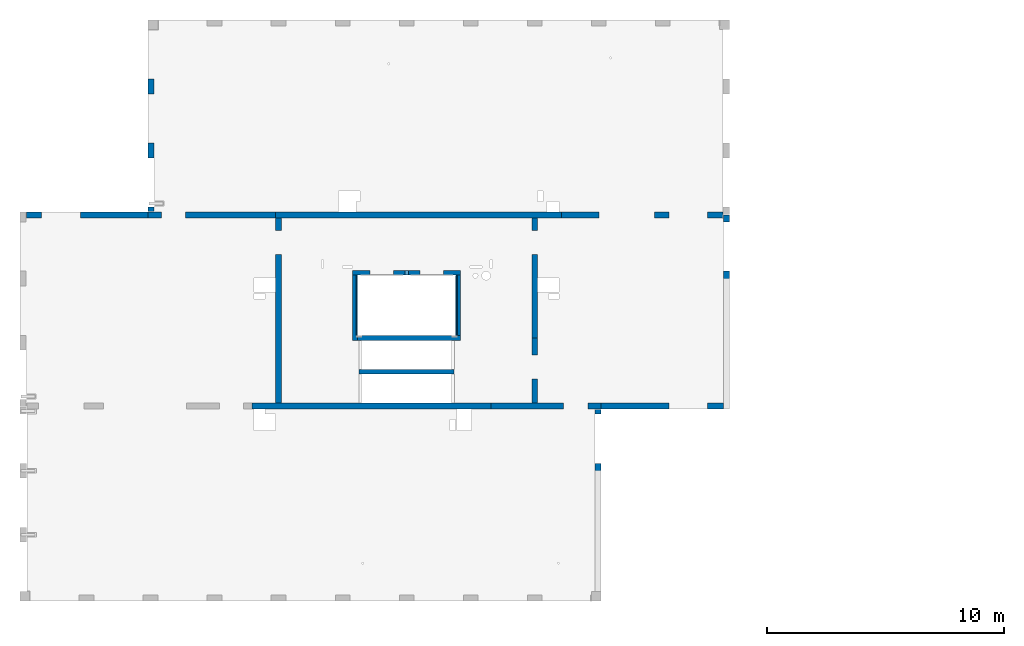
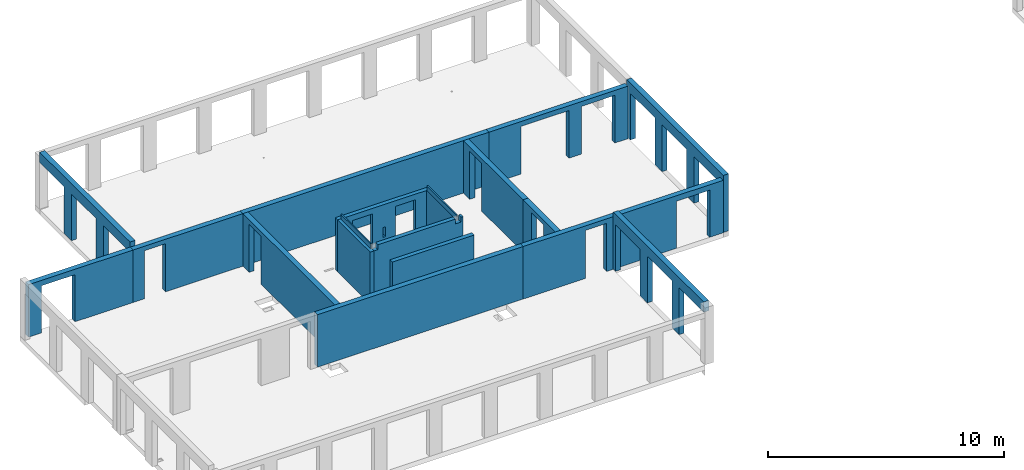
# One storey, part 4 of 13: 20 walls, 23 openings.
"""IFC2X3 building model written with IfcOpenShell, lengths in millimetres."""

import ifcopenshell
import ifcopenshell.guid

model = None  # the IFC model being written
_history = None  # IfcOwnerHistory: only IFC2X3 demands one
_inside = {}  # id of a spatial element -> (the spatial element, [elements in it])
_under = {}  # id of a project, library or spatial element -> (it, [spatial elements below it])
_declared = {}  # id of a project -> (the project, [libraries it declares])
_typed = {}  # id of a type object -> (the type object, [elements of that type])
_made_of = {}  # id of a material, layer set ... -> (it, [elements and type objects made of it])


def new_model(schema):
    """Start an empty IFC model of exactly this schema.

    Asked for "IFC4X3", IfcOpenShell would pick the latest addendum, in which some entities
    have other attributes; the version numbers below select the first issue.
    IFC2X3 requires an IfcOwnerHistory on every rooted entity: one is made here for all.
    """
    global model, _history
    if schema == "IFC4X3":
        model = ifcopenshell.file(schema_version=(4, 3, 0, 0))
    else:
        model = ifcopenshell.file(schema=schema)
    _inside.clear()
    _under.clear()
    _declared.clear()
    _typed.clear()
    _made_of.clear()
    _history = None
    if model.schema == "IFC2X3":
        org = make("IfcOrganization", Name="unknown")
        user = make(
            "IfcPersonAndOrganization",
            ThePerson=make("IfcPerson", FamilyName="unknown"),
            TheOrganization=org,
        )
        app = make(
            "IfcApplication",
            ApplicationDeveloper=org,
            Version="unknown",
            ApplicationFullName="unknown",
            ApplicationIdentifier="unknown",
        )
        _history = make(
            "IfcOwnerHistory",
            OwningUser=user,
            OwningApplication=app,
            ChangeAction="ADDED",
            CreationDate=0,
        )
    return model


def make(cls, **values):
    """One entity of the class cls with the attributes given. An attribute that is None is left unset."""
    return model.create_entity(
        cls, **{name: value for name, value in values.items() if value is not None}
    )


def entity(cls, *values):
    """Any entity or typed value of the class cls, its attributes in the order of the schema. None: left unset."""
    e = model.create_entity(cls)
    for i, value in enumerate(values):
        if value is not None:
            e[i] = value
    return e


def rooted(cls, **values):
    """An entity with a GlobalId (a new one), such as an element, a storey or a relation."""
    return make(cls, GlobalId=ifcopenshell.guid.new(), OwnerHistory=_history, **values)


def si_unit(unit_type, name, prefix=None):
    """IfcSIUnit, for example si_unit("LENGTHUNIT", "METRE", prefix="MILLI")."""
    return make("IfcSIUnit", UnitType=unit_type, Prefix=prefix, Name=name)


def converted_unit(unit_type, name, factor, base, dimensions=None, offset=None):
    """IfcConversionBasedUnit, such as the inch: factor (a typed value) times the base unit."""
    return make(
        "IfcConversionBasedUnit"
        if offset is None
        else "IfcConversionBasedUnitWithOffset",
        ConversionOffset=offset,
        Dimensions=None
        if dimensions is None
        else entity("IfcDimensionalExponents", *dimensions),
        UnitType=unit_type,
        Name=name,
        ConversionFactor=make(
            "IfcMeasureWithUnit", ValueComponent=factor, UnitComponent=base
        ),
    )


def derived_unit(unit_type, elements):
    """IfcDerivedUnit: a product of units, each with its exponent."""
    return make(
        "IfcDerivedUnit",
        Elements=[
            make("IfcDerivedUnitElement", Unit=unit, Exponent=power)
            for unit, power in elements
        ],
        UnitType=unit_type,
    )


def assignment(units):
    """IfcUnitAssignment: the units of a project."""
    return None if units is None else make("IfcUnitAssignment", Units=units)


def point(xyz):
    """IfcCartesianPoint."""
    return None if xyz is None else make("IfcCartesianPoint", Coordinates=xyz)


def direction(xyz):
    """IfcDirection."""
    return None if xyz is None else make("IfcDirection", DirectionRatios=xyz)


def frame(location, z_axis=None, x_axis=None):
    """IfcAxis2Placement3D, a coordinate frame: its origin and axes. An axis left out is left unset."""
    return make(
        "IfcAxis2Placement3D",
        Location=point(location),
        Axis=direction(z_axis),
        RefDirection=direction(x_axis),
    )


def frame_2d(location, x_axis=None):
    """IfcAxis2Placement2D, a coordinate frame in the plane: its origin and x axis."""
    return make(
        "IfcAxis2Placement2D", Location=point(location), RefDirection=direction(x_axis)
    )


def origin():
    """The frame at (0, 0, 0) with its axes left unset."""
    return frame((0.0, 0.0, 0.0))


def origin_2d_with_axis():
    """The frame at (0, 0) in the plane with the x axis (1, 0) written out."""
    return frame_2d((0.0, 0.0), x_axis=(1.0, 0.0))


def place(relative_to, where):
    """IfcLocalPlacement: puts the frame where relative to a parent placement (None: the world)."""
    return make(
        "IfcLocalPlacement", PlacementRelTo=relative_to, RelativePlacement=where
    )


def context(
    kind, dimensions, precision=None, world=None, true_north=None, identifier=None
):
    """IfcGeometricRepresentationContext, for example the 3D "Model" context."""
    return make(
        "IfcGeometricRepresentationContext",
        ContextIdentifier=identifier,
        ContextType=kind,
        CoordinateSpaceDimension=dimensions,
        Precision=precision,
        WorldCoordinateSystem=world,
        TrueNorth=true_north,
    )


def subcontext(parent, identifier, kind, view, scale=None):
    """IfcGeometricRepresentationSubContext, for example "Body" below "Model"."""
    return make(
        "IfcGeometricRepresentationSubContext",
        ContextIdentifier=identifier,
        ContextType=kind,
        ParentContext=parent,
        TargetScale=scale,
        TargetView=view,
    )


def project(units=None, contexts=None):
    """IfcProject with its units and contexts."""
    return rooted(
        "IfcProject",
        Name="project",
        RepresentationContexts=contexts,
        UnitsInContext=assignment(units),
    )


def spatial(cls, under=None, at=None, **own):
    """A site, building, storey or space (cls), placed at a placement, below another one or the project."""
    s = rooted(cls, ObjectPlacement=at, **own)
    if under is not None:
        _under.setdefault(under.id(), (under, []))[1].append(s)
    return s


def profile(cls, at=None, kind="AREA", **sizes):
    """A parametric profile (cls). Its sizes go by their IFC names, for example OverallWidth=200.0."""
    return make(cls, ProfileType=kind, Position=at, **sizes)


def rectangle(**sizes):
    """IfcRectangleProfileDef."""
    return profile("IfcRectangleProfileDef", **sizes)


def extrude(swept, where, along, depth):
    """IfcExtrudedAreaSolid: the profile swept, set in the frame where, extruded along a direction by depth."""
    return make(
        "IfcExtrudedAreaSolid",
        SweptArea=swept,
        Position=where,
        ExtrudedDirection=direction(along),
        Depth=depth,
    )


def shape(context_of_items, identifier, shape_type, items):
    """IfcShapeRepresentation: the items that make up one representation, for example the "Body"."""
    return make(
        "IfcShapeRepresentation",
        ContextOfItems=context_of_items,
        RepresentationIdentifier=identifier,
        RepresentationType=shape_type,
        Items=items,
    )


def material(Name=None, Category=None):
    """IfcMaterial."""
    return make("IfcMaterial", Name=Name, Category=Category)


def layer(
    of_material, thickness, ventilated=None, Name=None, Category=None, Priority=None
):
    """IfcMaterialLayer: one layer of a wall or slab, of a material (None: an air gap)."""
    return make(
        "IfcMaterialLayer",
        Material=of_material,
        LayerThickness=thickness,
        IsVentilated=ventilated,
        Name=Name,
        Category=Category,
        Priority=Priority,
    )


def layer_set(layers, Name=None):
    """IfcMaterialLayerSet."""
    return make("IfcMaterialLayerSet", MaterialLayers=layers, LayerSetName=Name)


def layer_usage(for_layer_set, set_direction, sense, offset, extent=None):
    """IfcMaterialLayerSetUsage: how a layer set lies in its element."""
    return make(
        "IfcMaterialLayerSetUsage",
        ForLayerSet=for_layer_set,
        LayerSetDirection=set_direction,
        DirectionSense=sense,
        OffsetFromReferenceLine=offset,
        ReferenceExtent=extent,
    )


def made_of(thing, what):
    """Note that an element or type object is made of a material, layer set ...; save() writes the relation."""
    if what is not None:
        _made_of.setdefault(what.id(), (what, []))[1].append(thing)
    return thing


def type_object(cls, material=None, **own):
    """A type object (cls), such as IfcWallType, which elements share."""
    return made_of(rooted(cls, **own), material)


def element(
    cls,
    number,
    at=None,
    inside=None,
    cuts=None,
    type_object=None,
    material=None,
    context=None,
    identifier="Body",
    shape_type=None,
    held_by="IfcProductDefinitionShape",
    body=None,
    shapes=None,
    **own,
):
    """One element of the class cls, such as IfcWall. Its Tag is "e" and its number.

    at: its placement. inside: the storey or other place that contains it. cuts: it is an
    opening in that element (IfcRelVoidsElement). A single representation is given by context,
    identifier, shape_type and body (its items); several are given by shapes. held_by: the class
    of the entity that holds the representations. save() writes the other relations.
    """
    e = rooted(cls, Tag="e%d" % number, ObjectPlacement=at, **own)
    if body is not None:
        shapes = [shape(context, identifier, shape_type, body)]
    if shapes is not None:
        e.Representation = make(held_by, Representations=shapes)
    if inside is not None:
        _inside.setdefault(inside.id(), (inside, []))[1].append(e)
    if cuts is not None:
        rooted(
            "IfcRelVoidsElement", RelatingBuildingElement=cuts, RelatedOpeningElement=e
        )
    if type_object is not None:
        _typed.setdefault(type_object.id(), (type_object, []))[1].append(e)
    return made_of(e, material)


def aggregate(whole, parts):
    """IfcRelAggregates: a whole, such as a stair, and the parts it consists of."""
    return rooted("IfcRelAggregates", RelatingObject=whole, RelatedObjects=parts)


def save(model, path):
    """Write the relations noted so far, then the file.

    IfcRelAggregates (storeys below a building ...), IfcRelContainedInSpatialStructure (elements
    in a storey), IfcRelDefinesByType, IfcRelAssociatesMaterial and IfcRelDeclares: one each for
    every whole, place, type object, material and project.
    """
    for whole, parts in _under.values():
        aggregate(whole, parts)
    for where, things in _inside.values():
        rooted(
            "IfcRelContainedInSpatialStructure",
            RelatedElements=things,
            RelatingStructure=where,
        )
    for kind, things in _typed.values():
        rooted("IfcRelDefinesByType", RelatedObjects=things, RelatingType=kind)
    for what, things in _made_of.values():
        rooted("IfcRelAssociatesMaterial", RelatedObjects=things, RelatingMaterial=what)
    for by, libraries in _declared.values():
        rooted("IfcRelDeclares", RelatingContext=by, RelatedDefinitions=libraries)
    model.write(path)


model = new_model("IFC2X3")

# Units and contexts
model_context = context("Model", 3, precision=0.01, world=origin(), true_north=direction((6.12303176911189e-17, 1.0)))
body_context = subcontext(model_context, "Body", "Model", "MODEL_VIEW")
ifc_project = project(units=[si_unit("LENGTHUNIT", "METRE", prefix="MILLI"), si_unit("AREAUNIT", "SQUARE_METRE"), si_unit("VOLUMEUNIT", "CUBIC_METRE"), converted_unit("PLANEANGLEUNIT", "DEGREE", entity("IfcRatioMeasure", 0.0174532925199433), si_unit("PLANEANGLEUNIT", "RADIAN"), dimensions=[0, 0, 0, 0, 0, 0, 0]), si_unit("MASSUNIT", "GRAM", prefix="KILO"), derived_unit("MASSDENSITYUNIT", [(si_unit("MASSUNIT", "GRAM", prefix="KILO"), 1), (si_unit("LENGTHUNIT", "METRE"), -3)]), si_unit("TIMEUNIT", "SECOND"), si_unit("FREQUENCYUNIT", "HERTZ"), si_unit("THERMODYNAMICTEMPERATUREUNIT", "DEGREE_CELSIUS"), derived_unit("THERMALTRANSMITTANCEUNIT", [(si_unit("MASSUNIT", "GRAM", prefix="KILO"), 1), (si_unit("THERMODYNAMICTEMPERATUREUNIT", "KELVIN"), -1), (si_unit("TIMEUNIT", "SECOND"), -3)]), derived_unit("VOLUMETRICFLOWRATEUNIT", [(si_unit("LENGTHUNIT", "METRE"), 3), (si_unit("TIMEUNIT", "SECOND"), -1)]), si_unit("ELECTRICCURRENTUNIT", "AMPERE"), si_unit("ELECTRICVOLTAGEUNIT", "VOLT"), si_unit("POWERUNIT", "WATT"), si_unit("FORCEUNIT", "NEWTON", prefix="KILO"), si_unit("ILLUMINANCEUNIT", "LUX"), si_unit("LUMINOUSFLUXUNIT", "LUMEN"), si_unit("LUMINOUSINTENSITYUNIT", "CANDELA"), derived_unit("USERDEFINED", [(si_unit("MASSUNIT", "GRAM", prefix="KILO"), -1), (si_unit("LENGTHUNIT", "METRE"), -2), (si_unit("TIMEUNIT", "SECOND"), 3), (si_unit("LUMINOUSFLUXUNIT", "LUMEN"), 1)]), derived_unit("LINEARVELOCITYUNIT", [(si_unit("LENGTHUNIT", "METRE"), 1), (si_unit("TIMEUNIT", "SECOND"), -1)]), si_unit("PRESSUREUNIT", "PASCAL"), derived_unit("USERDEFINED", [(si_unit("LENGTHUNIT", "METRE"), -2), (si_unit("MASSUNIT", "GRAM", prefix="KILO"), 1), (si_unit("TIMEUNIT", "SECOND"), -2)])], contexts=[model_context])

# Site, building, storey
site_placement = place(None, origin())
site = spatial("IfcSite", under=ifc_project, at=site_placement, Name="Default", CompositionType="ELEMENT")
building_placement = place(site_placement, origin())
building = spatial("IfcBuilding", under=site, at=building_placement, Name="niet gebruiken", CompositionType="ELEMENT")
storey_placement = place(building_placement, frame((0.0, 0.0, 60120.0)))
storey = spatial("IfcBuildingStorey", under=building, at=storey_placement, Name="20 twintigste verdieping", CompositionType="ELEMENT", Elevation=60120.0)

# Wall, opening
ifc_material_1 = material(Name="NLRS_f2_beton ihwg")
ifc_layer_1 = layer(ifc_material_1, 250.0)
ifc_layer_set_1 = layer_set([ifc_layer_1], Name="Basic Wall:NLRS_22.21_WA_beton ihwg d=250_gen")
ifc_layer_usage_1 = layer_usage(ifc_layer_set_1, "AXIS2", "NEGATIVE", 125.0)
wall_type_1 = type_object("IfcWallType", Name="Basic Wall:NLRS_22.21_WA_beton ihwg d=250_gen", PredefinedType="STANDARD", material=ifc_layer_set_1)
wall_1_placement = place(storey_placement, frame((27170.0, 45031.0, -90.0)))
wall_1 = element("IfcWallStandardCase", 1, at=wall_1_placement, inside=storey, type_object=wall_type_1, material=ifc_layer_usage_1, Name="Basic Wall:NLRS_22.21_WA_beton ihwg d=250_gen", ObjectType="Basic Wall:NLRS_22.21_WA_beton ihwg d=250_gen", context=body_context, shape_type="SweptSolid", body=[
    extrude(rectangle(XDim=5130.0, YDim=249.999999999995, at=frame_2d((2565.0, 0.0), x_axis=(-1.0, 0.0))), origin(), (0.0, 0.0, 1.0), 2719.99999999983),
])
opening_1_placement = place(wall_1_placement, origin())
element("IfcOpeningElement", 2, at=opening_1_placement, cuts=wall_1, Name="Basic Wall:NLRS_22.21_WA_beton ihwg d=250_gen", ObjectType="Opening", context=body_context, shape_type="SweptSolid", body=[
    extrude(rectangle(XDim=2440.0, YDim=1640.0, at=origin_2d_with_axis()), frame((1460.0, -1649.0, 1220.0), z_axis=(0.0, 1.0, 0.0), x_axis=(0.0, 0.0, 1.0)), (0.0, 0.0, 1.0), 3048.0),
])

ifc_layer_usage_2 = layer_usage(ifc_layer_set_1, "AXIS2", "NEGATIVE", 125.0)
wall_2_placement = place(storey_placement, frame((37800.0, 44906.0, -90.0), z_axis=(0.0, 0.0, 1.0), x_axis=(0.0, -1.0, 0.0)))
wall_2 = element("IfcWallStandardCase", 3, at=wall_2_placement, inside=storey, type_object=wall_type_1, material=ifc_layer_usage_2, Name="Basic Wall:NLRS_22.21_WA_beton ihwg d=250_gen", ObjectType="Basic Wall:NLRS_22.21_WA_beton ihwg d=250_gen", context=body_context, shape_type="SweptSolid", body=[
    extrude(rectangle(XDim=7799.99999999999, YDim=250.000000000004, at=frame_2d((3900.0, 0.0), x_axis=(-1.0, 0.0))), origin(), (0.0, 0.0, 1.0), 2719.99999999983),
])
opening_2_placement = place(wall_2_placement, origin())
element("IfcOpeningElement", 4, at=opening_2_placement, cuts=wall_2, Name="Basic Wall:NLRS_22.21_WA_beton ihwg d=250_gen", ObjectType="Opening", context=body_context, shape_type="SweptSolid", body=[
    extrude(rectangle(XDim=2470.0, YDim=1006.0, at=frame_2d((-4.43378667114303e-12, 0.0), x_axis=(1.0, 0.0))), frame((1027.0, -1649.0, 1235.0), z_axis=(0.0, 1.0, 0.0), x_axis=(0.0, 0.0, 1.0)), (0.0, 0.0, 1.0), 3048.0),
])

ifc_layer_usage_3 = layer_usage(ifc_layer_set_1, "AXIS2", "NEGATIVE", 125.0)
wall_3_placement = place(storey_placement, frame((48600.0, 44906.0, -90.0), z_axis=(0.0, 0.0, 1.0), x_axis=(0.0, -1.0, 0.0)))
wall_3 = element("IfcWallStandardCase", 5, at=wall_3_placement, inside=storey, type_object=wall_type_1, material=ifc_layer_usage_3, Name="Basic Wall:NLRS_22.21_WA_beton ihwg d=250_gen", ObjectType="Basic Wall:NLRS_22.21_WA_beton ihwg d=250_gen", context=body_context, shape_type="SweptSolid", body=[
    extrude(rectangle(XDim=5050.0, YDim=249.999999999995, at=frame_2d((2525.0, 1.27897692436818e-12), x_axis=(-1.0, 0.0))), origin(), (0.0, 0.0, 1.0), 2719.99999999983),
])
opening_3_placement = place(wall_3_placement, origin())
element("IfcOpeningElement", 6, at=opening_3_placement, cuts=wall_3, Name="Basic Wall:NLRS_22.21_WA_beton ihwg d=250_gen", ObjectType="Opening", context=body_context, shape_type="SweptSolid", body=[
    extrude(rectangle(XDim=2470.0, YDim=1006.0, at=frame_2d((-4.43378667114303e-12, 0.0), x_axis=(1.0, 0.0))), frame((1027.0, -1649.0, 1235.0), z_axis=(0.0, 1.0, 0.0), x_axis=(0.0, 0.0, 1.0)), (0.0, 0.0, 1.0), 3048.0),
])

ifc_layer_usage_4 = layer_usage(ifc_layer_set_1, "AXIS2", "NEGATIVE", 125.0)
wall_4_placement = place(storey_placement, frame((32300.0, 45031.0, -90.0)))
wall_4 = element("IfcWallStandardCase", 7, at=wall_4_placement, inside=storey, type_object=wall_type_1, material=ifc_layer_usage_4, Name="Basic Wall:NLRS_22.21_WA_beton ihwg d=250_gen", ObjectType="Basic Wall:NLRS_22.21_WA_beton ihwg d=250_gen", context=body_context, shape_type="SweptSolid", body=[
    extrude(rectangle(XDim=5375.0, YDim=249.999999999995, at=frame_2d((2687.5, 0.0), x_axis=(-1.0, 0.0))), origin(), (0.0, 0.0, 1.0), 2719.99999999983),
])
opening_4_placement = place(wall_4_placement, origin())
element("IfcOpeningElement", 8, at=opening_4_placement, cuts=wall_4, Name="Basic Wall:NLRS_22.21_WA_beton ihwg d=250_gen", ObjectType="Opening", context=body_context, shape_type="SweptSolid", body=[
    extrude(rectangle(XDim=2492.00000000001, YDim=1022.0, at=frame_2d((2.1600499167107e-12, 8.75388650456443e-12), x_axis=(0.0, 1.0))), frame((1075.0, -1399.0, 1246.0), z_axis=(0.0, 1.0, 0.0), x_axis=(-1.0, 0.0, 0.0)), (0.0, 0.0, 1.0), 3048.0),
])

ifc_layer_usage_5 = layer_usage(ifc_layer_set_1, "AXIS2", "NEGATIVE", 125.0)
wall_5_placement = place(storey_placement, frame((51400.0, 36981.0, -90.0)))
wall_5 = element("IfcWallStandardCase", 9, at=wall_5_placement, inside=storey, type_object=wall_type_1, material=ifc_layer_usage_5, Name="Basic Wall:NLRS_22.21_WA_beton ihwg d=250_gen", ObjectType="Basic Wall:NLRS_22.21_WA_beton ihwg d=250_gen", context=body_context, shape_type="SweptSolid", body=[
    extrude(rectangle(XDim=5150.0, YDim=250.000000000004, at=frame_2d((2575.0, 0.0), x_axis=(-1.0, 0.0))), origin(), (0.0, 0.0, 1.0), 2719.99999999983),
])
opening_5_placement = place(wall_5_placement, origin())
element("IfcOpeningElement", 10, at=opening_5_placement, cuts=wall_5, Name="Basic Wall:NLRS_22.21_WA_beton ihwg d=250_gen", ObjectType="Opening", context=body_context, shape_type="SweptSolid", body=[
    extrude(rectangle(XDim=2440.0, YDim=1640.0, at=frame_2d((-4.37694325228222e-12, 0.0), x_axis=(0.0, 1.0))), frame((3670.0, -1399.0, 1220.0), z_axis=(0.0, 1.0, 0.0), x_axis=(-1.0, 0.0, 0.0)), (0.0, 0.0, 1.0), 3048.0),
])

# Wall
ifc_layer_usage_6 = layer_usage(ifc_layer_set_1, "AXIS2", "NEGATIVE", 125.0)
wall_6_placement = place(storey_placement, frame((37675.0, 45031.0, -90.0)))
element("IfcWallStandardCase", 11, at=wall_6_placement, inside=storey, type_object=wall_type_1, material=ifc_layer_usage_6, Name="Basic Wall:NLRS_22.21_WA_beton ihwg d=250_gen", ObjectType="Basic Wall:NLRS_22.21_WA_beton ihwg d=250_gen", context=body_context, shape_type="SweptSolid", body=[
    extrude(rectangle(XDim=12050.0, YDim=249.999999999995, at=frame_2d((6025.00000000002, 0.0), x_axis=(-1.0, 0.0))), origin(), (0.0, 0.0, 1.0), 2719.99999999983),
])

# Wall, openings
ifc_layer_usage_7 = layer_usage(ifc_layer_set_1, "AXIS2", "NEGATIVE", 125.0)
wall_7_placement = place(storey_placement, frame((49725.0, 45031.0, -90.0)))
wall_7 = element("IfcWallStandardCase", 12, at=wall_7_placement, inside=storey, type_object=wall_type_1, material=ifc_layer_usage_7, Name="Basic Wall:NLRS_22.21_WA_beton ihwg d=250_gen", ObjectType="Basic Wall:NLRS_22.21_WA_beton ihwg d=250_gen", context=body_context, shape_type="SweptSolid", body=[
    extrude(rectangle(XDim=6805.0, YDim=249.999999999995, at=frame_2d((3402.5, 0.0), x_axis=(-1.0, 0.0))), origin(), (0.0, 0.0, 1.0), 2719.99999999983),
])
opening_6_placement = place(wall_7_placement, origin())
element("IfcOpeningElement", 13, at=opening_6_placement, cuts=wall_7, Name="Basic Wall:NLRS_22.21_WA_beton ihwg d=250_gen", ObjectType="Opening", context=body_context, shape_type="SweptSolid", body=[
    extrude(rectangle(XDim=2470.0, YDim=2350.0, at=frame_2d((4.43378667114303e-12, -8.64019966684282e-12), x_axis=(1.0, 0.0))), frame((2750.0, -1649.0, 1235.0), z_axis=(0.0, 1.0, 0.0), x_axis=(0.0, 0.0, 1.0)), (0.0, 0.0, 1.0), 3048.0),
])
opening_7_placement = place(wall_7_placement, origin())
element("IfcOpeningElement", 14, at=opening_7_placement, cuts=wall_7, Name="Basic Wall:NLRS_22.21_WA_beton ihwg d=250_gen", ObjectType="Opening", context=body_context, shape_type="SweptSolid", body=[
    extrude(rectangle(XDim=2470.0, YDim=1640.0, at=frame_2d((4.43378667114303e-12, 4.37694325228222e-12), x_axis=(1.0, 0.0))), frame((5345.0, -1649.0, 1235.0), z_axis=(0.0, 1.0, 0.0), x_axis=(0.0, 0.0, 1.0)), (0.0, 0.0, 1.0), 3048.0),
])

# Wall, opening
ifc_layer_usage_8 = layer_usage(ifc_layer_set_1, "AXIS2", "NEGATIVE", 125.0)
wall_8_placement = place(storey_placement, frame((48600.0, 39856.0, -90.0), z_axis=(0.0, 0.0, 1.0), x_axis=(0.0, -1.0, 0.0)))
wall_8 = element("IfcWallStandardCase", 15, at=wall_8_placement, inside=storey, type_object=wall_type_1, material=ifc_layer_usage_8, Name="Basic Wall:NLRS_22.21_WA_beton ihwg d=250_gen", ObjectType="Basic Wall:NLRS_22.21_WA_beton ihwg d=250_gen", context=body_context, shape_type="SweptSolid", body=[
    extrude(rectangle(XDim=2749.99999999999, YDim=249.999999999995, at=frame_2d((1375.0, -1.27897692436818e-12), x_axis=(-1.0, 0.0))), origin(), (0.0, 0.0, 1.0), 2719.99999999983),
])
opening_8_placement = place(wall_8_placement, origin())
element("IfcOpeningElement", 16, at=opening_8_placement, cuts=wall_8, Name="Basic Wall:NLRS_22.21_WA_beton ihwg d=250_gen", ObjectType="Opening", context=body_context, shape_type="SweptSolid", body=[
    extrude(rectangle(XDim=2492.00000000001, YDim=1022.0, at=frame_2d((0.0, -2.1600499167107e-12), x_axis=(1.0, 0.0))), frame((1225.0, -1649.0, 1246.0), z_axis=(0.0, 1.0, 0.0), x_axis=(0.0, 0.0, 1.0)), (0.0, 0.0, 1.0), 3048.0),
])

ifc_layer_usage_9 = layer_usage(ifc_layer_set_1, "AXIS2", "NEGATIVE", 125.0)
wall_9_placement = place(storey_placement, frame((46750.0, 36981.0, -90.0)))
wall_9 = element("IfcWallStandardCase", 17, at=wall_9_placement, inside=storey, type_object=wall_type_1, material=ifc_layer_usage_9, Name="Basic Wall:NLRS_22.21_WA_beton ihwg d=250_gen", ObjectType="Basic Wall:NLRS_22.21_WA_beton ihwg d=250_gen", context=body_context, shape_type="SweptSolid", body=[
    extrude(rectangle(XDim=4650.0, YDim=250.000000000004, at=frame_2d((2325.0, 0.0), x_axis=(-1.0, 0.0))), origin(), (0.0, 0.0, 1.0), 2719.99999999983),
])
opening_9_placement = place(wall_9_placement, origin())
element("IfcOpeningElement", 18, at=opening_9_placement, cuts=wall_9, Name="Basic Wall:NLRS_22.21_WA_beton ihwg d=250_gen", ObjectType="Opening", context=body_context, shape_type="SweptSolid", body=[
    extrude(rectangle(XDim=2492.00000000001, YDim=1022.0, at=frame_2d((0.0, 4.32009983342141e-12), x_axis=(1.0, 0.0))), frame((3575.0, -1649.0, 1246.0), z_axis=(0.0, 1.0, 0.0), x_axis=(0.0, 0.0, 1.0)), (0.0, 0.0, 1.0), 3048.0),
])

# Wall
ifc_layer_usage_10 = layer_usage(ifc_layer_set_1, "AXIS2", "NEGATIVE", 125.0)
wall_10_placement = place(storey_placement, frame((36675.0, 36981.0, -90.0)))
element("IfcWallStandardCase", 19, at=wall_10_placement, inside=storey, type_object=wall_type_1, material=ifc_layer_usage_10, Name="Basic Wall:NLRS_22.21_WA_beton ihwg d=250_gen", ObjectType="Basic Wall:NLRS_22.21_WA_beton ihwg d=250_gen", context=body_context, shape_type="SweptSolid", body=[
    extrude(rectangle(XDim=10075.0, YDim=250.000000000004, at=frame_2d((5037.5, 0.0), x_axis=(-1.0, 0.0))), origin(), (0.0, 0.0, 1.0), 2719.99999999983),
])

# Wall, openings
ifc_material_2 = material(Name="NLRS_f2_beton prefab")
ifc_layer_2 = layer(ifc_material_2, 250.0)
ifc_layer_set_2 = layer_set([ifc_layer_2], Name="Basic Wall:NLRS_21.21_WA_beton prefab d=250_gen")
ifc_layer_usage_11 = layer_usage(ifc_layer_set_2, "AXIS2", "NEGATIVE", 125.0)
wall_type_2 = type_object("IfcWallType", Name="Basic Wall:NLRS_21.21_WA_beton prefab d=250_gen", PredefinedType="STANDARD", material=ifc_layer_set_2)
wall_11_placement = place(storey_placement, frame((32425.0, 52846.0, -70.0), z_axis=(0.0, 0.0, 1.0), x_axis=(0.0, -1.0, 0.0)))
wall_11 = element("IfcWallStandardCase", 20, at=wall_11_placement, inside=storey, type_object=wall_type_2, material=ifc_layer_usage_11, Name="Basic Wall:NLRS_21.21_WA_beton prefab d=250_gen", ObjectType="Basic Wall:NLRS_21.21_WA_beton prefab d=250_gen", context=body_context, shape_type="SweptSolid", body=[
    extrude(rectangle(XDim=7670.00000000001, YDim=250.000000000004, at=frame_2d((3835.0, 0.0), x_axis=(-1.0, 0.0))), origin(), (0.0, 0.0, 1.0), 2950.00000000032),
])
opening_10_placement = place(wall_11_placement, origin())
element("IfcOpeningElement", 21, at=opening_10_placement, cuts=wall_11, Name="Basic Wall:NLRS_21.21_WA_beton prefab d=250_gen", ObjectType="Opening", context=body_context, shape_type="SweptSolid", body=[
    extrude(rectangle(XDim=2420.0, YDim=2080.0, at=frame_2d((8.64019966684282e-12, 0.0), x_axis=(0.0, 1.0))), frame((1040.0, -1399.0, 1210.0), z_axis=(0.0, 1.0, 0.0), x_axis=(-1.0, 0.0, 0.0)), (0.0, 0.0, 1.0), 3048.0),
])
opening_11_placement = place(wall_11_placement, origin())
element("IfcOpeningElement", 22, at=opening_11_placement, cuts=wall_11, Name="Basic Wall:NLRS_21.21_WA_beton prefab d=250_gen", ObjectType="Opening", context=body_context, shape_type="SweptSolid", body=[
    extrude(rectangle(XDim=2420.0, YDim=2080.0, at=frame_2d((0.0, 0.0), x_axis=(0.0, 1.0))), frame((3740.0, -1399.0, 1210.0), z_axis=(0.0, 1.0, 0.0), x_axis=(-1.0, 0.0, 0.0)), (0.0, 0.0, 1.0), 3048.0),
])
opening_12_placement = place(wall_11_placement, origin())
element("IfcOpeningElement", 23, at=opening_12_placement, cuts=wall_11, Name="Basic Wall:NLRS_21.21_WA_beton prefab d=250_gen", ObjectType="Opening", context=body_context, shape_type="SweptSolid", body=[
    extrude(rectangle(XDim=2420.0, YDim=2080.0, at=frame_2d((0.0, 0.0), x_axis=(0.0, 1.0))), frame((6440.0, -1399.0, 1210.0), z_axis=(0.0, 1.0, 0.0), x_axis=(-1.0, 0.0, 0.0)), (0.0, 0.0, 1.0), 3048.0),
])

ifc_layer_usage_12 = layer_usage(ifc_layer_set_2, "AXIS2", "NEGATIVE", 125.0)
wall_12_placement = place(storey_placement, frame((56675.0, 45046.0, -70.0), z_axis=(0.0, 0.0, 1.0), x_axis=(0.0, -1.0, 0.0)))
wall_12 = element("IfcWallStandardCase", 24, at=wall_12_placement, inside=storey, type_object=wall_type_2, material=ifc_layer_usage_12, Name="Basic Wall:NLRS_21.21_WA_beton prefab d=250_gen", ObjectType="Basic Wall:NLRS_21.21_WA_beton prefab d=250_gen", context=body_context, shape_type="SweptSolid", body=[
    extrude(rectangle(XDim=8189.99999999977, YDim=249.999999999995, at=frame_2d((4094.99999999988, 0.0), x_axis=(-1.0, 0.0))), origin(), (0.0, 0.0, 1.0), 2950.00000000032),
])
opening_13_placement = place(wall_12_placement, origin())
element("IfcOpeningElement", 25, at=opening_13_placement, cuts=wall_12, Name="Basic Wall:NLRS_21.21_WA_beton prefab d=250_gen", ObjectType="Opening", context=body_context, shape_type="SweptSolid", body=[
    extrude(rectangle(XDim=2420.0, YDim=2080.0, at=frame_2d((0.0, 0.0), x_axis=(0.0, 1.0))), frame((1340.0, -1399.0, 1210.0), z_axis=(0.0, 1.0, 0.0), x_axis=(-1.0, 0.0, 0.0)), (0.0, 0.0, 1.0), 3048.0),
])
opening_14_placement = place(wall_12_placement, origin())
element("IfcOpeningElement", 26, at=opening_14_placement, cuts=wall_12, Name="Basic Wall:NLRS_21.21_WA_beton prefab d=250_gen", ObjectType="Opening", context=body_context, shape_type="SweptSolid", body=[
    extrude(rectangle(XDim=2420.0, YDim=2080.0, at=frame_2d((0.0, 0.0), x_axis=(0.0, 1.0))), frame((4040.0, -1399.0, 1210.0), z_axis=(0.0, 1.0, 0.0), x_axis=(-1.0, 0.0, 0.0)), (0.0, 0.0, 1.0), 3048.0),
])
opening_15_placement = place(wall_12_placement, origin())
element("IfcOpeningElement", 27, at=opening_15_placement, cuts=wall_12, Name="Basic Wall:NLRS_21.21_WA_beton prefab d=250_gen", ObjectType="Opening", context=body_context, shape_type="SweptSolid", body=[
    extrude(rectangle(XDim=2420.0, YDim=2080.0, at=frame_2d((0.0, 0.0), x_axis=(0.0, 1.0))), frame((6740.0, -1399.0, 1210.0), z_axis=(0.0, 1.0, 0.0), x_axis=(-1.0, 0.0, 0.0)), (0.0, 0.0, 1.0), 3048.0),
])

ifc_layer_usage_13 = layer_usage(ifc_layer_set_2, "AXIS2", "NEGATIVE", 125.0)
wall_13_placement = place(storey_placement, frame((51275.0, 29166.0, -70.0), z_axis=(0.0, 0.0, 1.0), x_axis=(0.0, 1.0, 0.0)))
wall_13 = element("IfcWallStandardCase", 28, at=wall_13_placement, inside=storey, type_object=wall_type_2, material=ifc_layer_usage_13, Name="Basic Wall:NLRS_21.21_WA_beton prefab d=250_gen", ObjectType="Basic Wall:NLRS_21.21_WA_beton prefab d=250_gen", context=body_context, shape_type="SweptSolid", body=[
    extrude(rectangle(XDim=7669.99999999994, YDim=249.999999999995, at=frame_2d((3834.99999999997, 0.0), x_axis=(-1.0, 0.0))), origin(), (0.0, 0.0, 1.0), 2949.99999999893),
])
opening_16_placement = place(wall_13_placement, origin())
element("IfcOpeningElement", 29, at=opening_16_placement, cuts=wall_13, Name="Basic Wall:NLRS_21.21_WA_beton prefab d=250_gen", ObjectType="Opening", context=body_context, shape_type="SweptSolid", body=[
    extrude(rectangle(XDim=2420.0, YDim=2080.0, at=frame_2d((2.1600499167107e-12, 0.0), x_axis=(0.0, 1.0))), frame((1040.0, -1399.0, 1210.0), z_axis=(0.0, 1.0, 0.0), x_axis=(-1.0, 0.0, 0.0)), (0.0, 0.0, 1.0), 3048.0),
])
opening_17_placement = place(wall_13_placement, origin())
element("IfcOpeningElement", 30, at=opening_17_placement, cuts=wall_13, Name="Basic Wall:NLRS_21.21_WA_beton prefab d=250_gen", ObjectType="Opening", context=body_context, shape_type="SweptSolid", body=[
    extrude(rectangle(XDim=2420.0, YDim=2080.0, at=frame_2d((2.1600499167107e-12, 0.0), x_axis=(0.0, 1.0))), frame((6440.0, -1399.0, 1210.0), z_axis=(0.0, 1.0, 0.0), x_axis=(-1.0, 0.0, 0.0)), (0.0, 0.0, 1.0), 3048.0),
])
opening_18_placement = place(wall_13_placement, origin())
element("IfcOpeningElement", 31, at=opening_18_placement, cuts=wall_13, Name="Basic Wall:NLRS_21.21_WA_beton prefab d=250_gen", ObjectType="Opening", context=body_context, shape_type="SweptSolid", body=[
    extrude(rectangle(XDim=2420.0, YDim=2080.0, at=frame_2d((2.1600499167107e-12, 0.0), x_axis=(0.0, 1.0))), frame((3740.0, -1399.0, 1210.0), z_axis=(0.0, 1.0, 0.0), x_axis=(-1.0, 0.0, 0.0)), (0.0, 0.0, 1.0), 3048.0),
])

# Wall
ifc_layer_3 = layer(ifc_material_2, 200.0)
ifc_layer_set_3 = layer_set([ifc_layer_3], Name="Basic Wall:NLRS_21.21_WA_beton prefab d=200_gen")
ifc_layer_usage_14 = layer_usage(ifc_layer_set_3, "AXIS2", "NEGATIVE", 100.0)
wall_type_3 = type_object("IfcWallType", Name="Basic Wall:NLRS_21.21_WA_beton prefab d=200_gen", PredefinedType="STANDARD", material=ifc_layer_set_3)
wall_14_placement = place(storey_placement, frame((41200.0, 38426.0, -70.0)))
element("IfcWallStandardCase", 32, at=wall_14_placement, inside=storey, type_object=wall_type_3, material=ifc_layer_usage_14, Name="Basic Wall:NLRS_21.21_WA_beton prefab d=200_gen", ObjectType="Basic Wall:NLRS_21.21_WA_beton prefab d=200_gen", context=body_context, shape_type="SweptSolid", body=[
    extrude(rectangle(XDim=3999.99999999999, YDim=199.999999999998, at=frame_2d((2000.0, 0.0), x_axis=(-1.0, 0.0))), origin(), (0.0, 0.0, 1.0), 2950.00000000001),
])

# Wall, openings
ifc_layer_4 = layer(ifc_material_2, 200.0)
ifc_layer_set_4 = layer_set([ifc_layer_4], Name="Basic Wall:NLRS_22.21_WA_beton prefab d=200_gen")
ifc_layer_usage_15 = layer_usage(ifc_layer_set_4, "AXIS2", "NEGATIVE", 100.0)
wall_type_4 = type_object("IfcWallType", Name="Basic Wall:NLRS_22.21_WA_beton prefab d=200_gen", PredefinedType="STANDARD", material=ifc_layer_set_4)
wall_15_placement = place(storey_placement, frame((40925.0, 42596.0, -70.0)))
wall_15 = element("IfcWallStandardCase", 33, at=wall_15_placement, inside=storey, type_object=wall_type_4, material=ifc_layer_usage_15, Name="Basic Wall:NLRS_22.21_WA_beton prefab d=200_gen", ObjectType="Basic Wall:NLRS_22.21_WA_beton prefab d=200_gen", context=body_context, shape_type="SweptSolid", body=[
    extrude(rectangle(XDim=4549.99999999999, YDim=200.000000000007, at=frame_2d((2274.99999999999, 7.8159700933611e-13), x_axis=(-1.0, 0.0))), origin(), (0.0, 0.0, 1.0), 2700.00000000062),
])
opening_19_placement = place(wall_15_placement, origin())
element("IfcOpeningElement", 34, at=opening_19_placement, cuts=wall_15, Name="Basic Wall:NLRS_22.21_WA_beton prefab d=200_gen", ObjectType="Opening", context=body_context, shape_type="SweptSolid", body=[
    extrude(rectangle(XDim=2430.0, YDim=980.000000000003, at=origin_2d_with_axis()), frame((1219.99984910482, -1624.0, 1195.0), z_axis=(0.0, 1.0, 0.0), x_axis=(0.0, 0.0, 1.0)), (0.0, 0.0, 1.0), 3048.0),
])
opening_20_placement = place(wall_15_placement, origin())
element("IfcOpeningElement", 35, at=opening_20_placement, cuts=wall_15, Name="Basic Wall:NLRS_22.21_WA_beton prefab d=200_gen", ObjectType="Opening", context=body_context, shape_type="SweptSolid", body=[
    extrude(rectangle(XDim=2430.0, YDim=980.000000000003, at=origin_2d_with_axis()), frame((3329.99984910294, -1624.0, 1195.0), z_axis=(0.0, 1.0, 0.0), x_axis=(0.0, 0.0, 1.0)), (0.0, 0.0, 1.0), 3048.0),
])
opening_21_placement = place(wall_15_placement, origin())
element("IfcOpeningElement", 36, at=opening_21_placement, cuts=wall_15, Name="Basic Wall:NLRS_22.21_WA_beton prefab d=200_gen", ObjectType="Opening", context=body_context, shape_type="SweptSolid", body=[
    extrude(rectangle(XDim=505.000000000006, YDim=135.000000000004, at=frame_2d((-4.33431068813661e-12, 0.0), x_axis=(1.0, 0.0))), frame((2275.0, -1624.0, 1272.50000000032), z_axis=(0.0, 1.0, 0.0), x_axis=(0.0, 0.0, 1.0)), (0.0, 0.0, 1.0), 3048.0),
])

# Wall
ifc_layer_usage_16 = layer_usage(ifc_layer_set_4, "AXIS2", "NEGATIVE", 100.0)
wall_16_placement = place(storey_placement, frame((41025.0, 42496.0, -70.0), z_axis=(0.0, 0.0, 1.0), x_axis=(0.0, -1.0, 0.0)))
element("IfcWallStandardCase", 37, at=wall_16_placement, inside=storey, type_object=wall_type_4, material=ifc_layer_usage_16, Name="Basic Wall:NLRS_22.21_WA_beton prefab d=200_gen", ObjectType="Basic Wall:NLRS_22.21_WA_beton prefab d=200_gen", context=body_context, shape_type="SweptSolid", body=[
    extrude(rectangle(XDim=2749.99999999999, YDim=200.000000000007, at=frame_2d((1375.0, 0.0), x_axis=(-1.0, 0.0))), origin(), (0.0, 0.0, 1.0), 2700.00000000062),
])

# Wall, openings
ifc_layer_usage_17 = layer_usage(ifc_layer_set_4, "AXIS2", "NEGATIVE", 100.0)
wall_17_placement = place(storey_placement, frame((45475.0, 39846.0, -70.0), z_axis=(0.0, 0.0, 1.0), x_axis=(-1.0, 0.0, 0.0)))
wall_17 = element("IfcWallStandardCase", 38, at=wall_17_placement, inside=storey, type_object=wall_type_4, material=ifc_layer_usage_17, Name="Basic Wall:NLRS_22.21_WA_beton prefab d=200_gen", ObjectType="Basic Wall:NLRS_22.21_WA_beton prefab d=200_gen", context=body_context, shape_type="SweptSolid", body=[
    extrude(rectangle(XDim=4349.99999999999, YDim=200.000000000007, at=frame_2d((2174.99999999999, 0.0), x_axis=(-1.0, 0.0))), origin(), (0.0, 0.0, 1.0), 2950.00000000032),
])
opening_22_placement = place(wall_17_placement, origin())
element("IfcOpeningElement", 39, at=opening_22_placement, cuts=wall_17, Name="Basic Wall:NLRS_22.21_WA_beton prefab d=200_gen", ObjectType="Opening", context=body_context, shape_type="SweptSolid", body=[
    extrude(rectangle(XDim=249.999999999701, YDim=274.999934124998, at=frame_2d((0.0, 4.33431068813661e-12), x_axis=(1.0, 0.0))), frame((4312.50003293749, 100.0, 2825.0), z_axis=(0.0, -1.0, 0.0), x_axis=(0.0, 0.0, 1.0)), (0.0, 0.0, 1.0), 200.0),
])
opening_23_placement = place(wall_17_placement, origin())
element("IfcOpeningElement", 40, at=opening_23_placement, cuts=wall_17, Name="Basic Wall:NLRS_22.21_WA_beton prefab d=200_gen", ObjectType="Opening", context=body_context, shape_type="SweptSolid", body=[
    extrude(rectangle(XDim=249.999999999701, YDim=275.000032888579, at=frame_2d((-4.32009983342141e-12, 0.0), x_axis=(0.0, 1.0))), frame((237.500016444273, 100.0, 2825.0), z_axis=(0.0, -1.0, 0.0), x_axis=(-1.0, 0.0, 0.0)), (0.0, 0.0, 1.0), 200.0),
])

# Walls
ifc_layer_usage_18 = layer_usage(ifc_layer_set_4, "AXIS2", "NEGATIVE", 100.0)
wall_18_placement = place(storey_placement, frame((45375.0, 39946.0, -70.0), z_axis=(0.0, 0.0, 1.0), x_axis=(0.0, 1.0, 0.0)))
element("IfcWallStandardCase", 41, at=wall_18_placement, inside=storey, type_object=wall_type_4, material=ifc_layer_usage_18, Name="Basic Wall:NLRS_22.21_WA_beton prefab d=200_gen", ObjectType="Basic Wall:NLRS_22.21_WA_beton prefab d=200_gen", context=body_context, shape_type="SweptSolid", body=[
    extrude(rectangle(XDim=2549.99999999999, YDim=200.000000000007, at=frame_2d((1275.0, 0.0), x_axis=(-1.0, 0.0))), origin(), (0.0, 0.0, 1.0), 2700.00000000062),
])
ifc_layer_5 = layer(ifc_material_2, 60.0)
ifc_layer_set_5 = layer_set([ifc_layer_5], Name="Basic Wall:NLRS_22.21_WA_beton prefab d=60_gen")
ifc_layer_usage_19 = layer_usage(ifc_layer_set_5, "AXIS2", "NEGATIVE", 30.0)
wall_type_5 = type_object("IfcWallType", Name="Basic Wall:NLRS_22.21_WA_beton prefab d=60_gen", PredefinedType="STANDARD", material=ifc_layer_set_5)
wall_19_placement = place(storey_placement, frame((41095.0, 42476.0, 2630.0), z_axis=(0.0, 0.0, 1.0), x_axis=(0.0, -1.0, 0.0)))
element("IfcWallStandardCase", 42, at=wall_19_placement, inside=storey, type_object=wall_type_5, material=ifc_layer_usage_19, Name="Basic Wall:NLRS_22.21_WA_beton prefab d=60_gen", ObjectType="Basic Wall:NLRS_22.21_WA_beton prefab d=60_gen", context=body_context, shape_type="SweptSolid", body=[
    extrude(rectangle(XDim=2510.00000000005, YDim=60.0000000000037, at=frame_2d((1255.00000000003, 0.0), x_axis=(-1.0, 0.0))), origin(), (0.0, 0.0, 1.0), 250.000000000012),
])
ifc_layer_usage_20 = layer_usage(ifc_layer_set_5, "AXIS2", "POSITIVE", -30.0)
wall_20_placement = place(storey_placement, frame((45305.0, 42476.0, 2630.0), z_axis=(0.0, 0.0, 1.0), x_axis=(0.0, -1.0, 0.0)))
element("IfcWallStandardCase", 43, at=wall_20_placement, inside=storey, type_object=wall_type_5, material=ifc_layer_usage_20, Name="Basic Wall:NLRS_22.21_WA_beton prefab d=60_gen", ObjectType="Basic Wall:NLRS_22.21_WA_beton prefab d=60_gen", context=body_context, shape_type="SweptSolid", body=[
    extrude(rectangle(XDim=2510.00000000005, YDim=60.0000000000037, at=frame_2d((1255.00000000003, 0.0), x_axis=(-1.0, 0.0))), origin(), (0.0, 0.0, 1.0), 250.000000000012),
])

save(model, "model.ifc")
